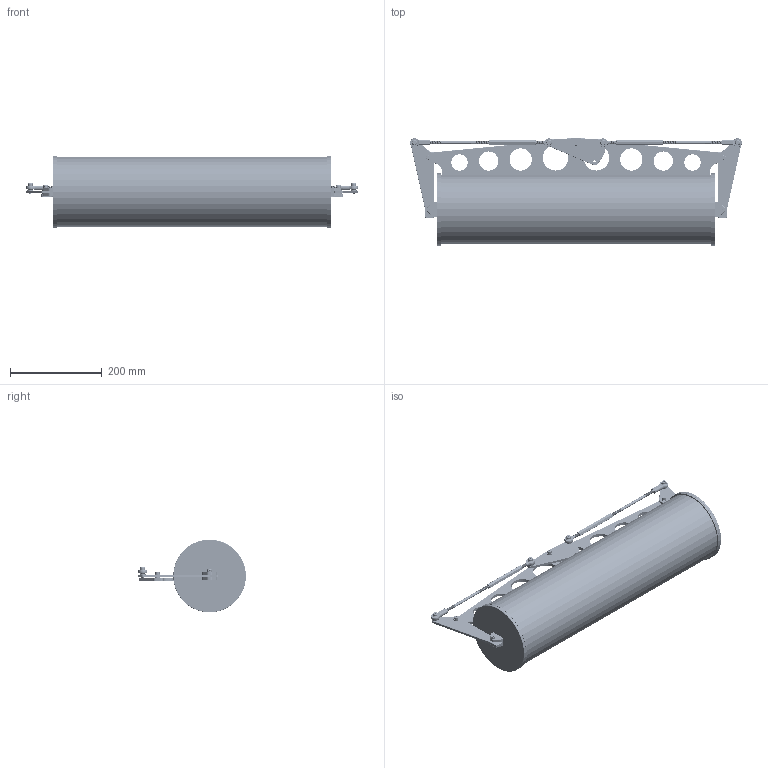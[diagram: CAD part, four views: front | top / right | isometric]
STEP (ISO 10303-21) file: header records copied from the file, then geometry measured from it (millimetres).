
FILE_DESCRIPTION (( 'STEP AP214' ), '1' );
FILE_NAME ('200-10011-1.0 Closed.STEP', '2025-10-17T20:29:51', ( '' ), ( '' ), 'SwSTEP 2.0', 'SolidWorks 2024', '' );
FILE_SCHEMA (( 'AUTOMOTIVE_DESIGN' ));
Length unit declared in the file: inch
Products named in the file (19): 93996A845_18-8 Stainless Steel Thread-Locking Precision Shoulder Screw_93996A845; 220-10041-1.0; 2795T203_Light Duty Dry-Running Thrust Bearing_2795T203; 92210A535_18-8 Stainless Steel Hex Drive Flat Head Screw_92210A535; 220-10040-1.0; 220-10042-1.0; 200-10011-1.0 Closed; 220-10046-1.0; 59915K222_Corrosion-Resistant Ball Joint Rod End_59915K222; 220-10045-1.0; 210-10007-1.0; 59915K482_Corrosion-Resistant Ball Joint Rod End_59915K482; 6516K375_Connecting Rod_6516K375; 8416N77_18-8 Stainless Steel Turnbuckle-Style Connecting Rod_8416N77; 2705T79_Light Duty Dry-Running Flanged Sleeve Bearing_2705T79; 93996A842_18-8 Stainless Steel Thread-Locking Precision Shoulder Screw_93996A842; 90298A218_18-8 Stainless Steel Shoulder Screw_90298A218; 220-10043-1.0; 220-10044-1.0
Assembly tree (39 placements, depth 3):
  200-10011-1.0 Closed
    220-10040-1.0
    220-10041-1.0
    220-10042-1.0
    220-10043-1.0  x2
    210-10007-1.0  x2
      220-10044-1.0
      220-10045-1.0
      220-10046-1.0
      92210A535_18-8 Stainless Steel Hex Drive Flat Head Screw_92210A535
    2705T79_Light Duty Dry-Running Flanged Sleeve Bearing_2705T79  x3
    2795T203_Light Duty Dry-Running Thrust Bearing_2795T203  x7
    90298A218_18-8 Stainless Steel Shoulder Screw_90298A218  x2
    59915K482_Corrosion-Resistant Ball Joint Rod End_59915K482  x2
    59915K222_Corrosion-Resistant Ball Joint Rod End_59915K222  x2
    6516K375_Connecting Rod_6516K375  x2
    8416N77_18-8 Stainless Steel Turnbuckle-Style Connecting Rod_8416N77  x2
    93996A845_18-8 Stainless Steel Thread-Locking Precision Shoulder Screw_93996A845  x4
    93996A842_18-8 Stainless Steel Thread-Locking Precision Shoulder Screw_93996A842  x3
Bounding box: 723.9 x 235.27 x 158.75 mm (x, y, z)
Volume: 1456605.7 mm3; surface area: 877377.6 mm2
Topology: 46 solids, 46 shells, 2616 faces, 6873 edges, 4396 vertices
Faces by surface type: cylinder 1134, plane 608, cone 517, bspline 277, torus 56, sphere 24
Entity records: 81787 total; most frequent: CARTESIAN_POINT 54722, ORIENTED_EDGE 6086, DIRECTION 4587, EDGE_CURVE 3043, VERTEX_POINT 1946, AXIS2_PLACEMENT_3D 1728, EDGE_LOOP 1237, ADVANCED_FACE 1155
